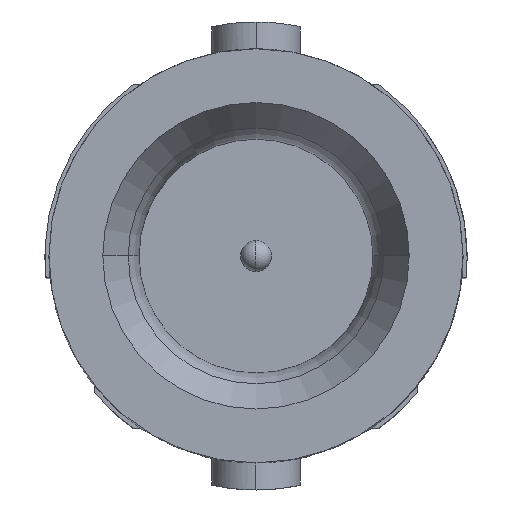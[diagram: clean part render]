
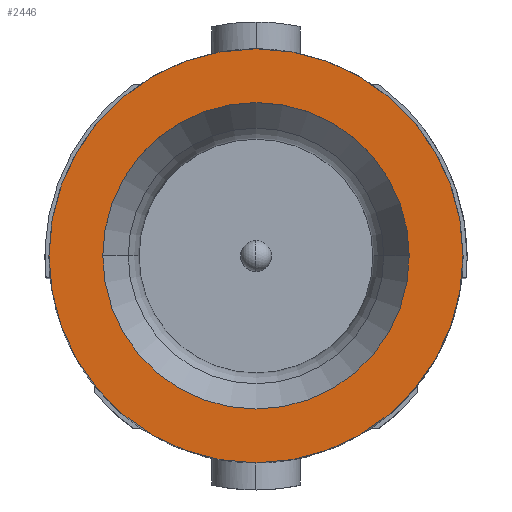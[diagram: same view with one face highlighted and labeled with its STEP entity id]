
A CAD part, top view. The second image highlights one B-rep face of the part: STEP entity #2446.
In plain terms, the highlighted planar face has unit normal (0, 0, 1).
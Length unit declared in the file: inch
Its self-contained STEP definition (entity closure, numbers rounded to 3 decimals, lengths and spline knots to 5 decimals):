
#41 = DIRECTION ( 'NONE',  ( 1., 0., 0. ) ) ;
#97 = AXIS2_PLACEMENT_3D ( 'NONE', #2220, #1118, #2920 ) ;
#231 = FACE_BOUND ( 'NONE', #1231, .T. ) ;
#234 = VERTEX_POINT ( 'NONE', #1091 ) ;
#461 = CIRCLE ( 'NONE', #2527, 0.077 ) ;
#522 = CIRCLE ( 'NONE', #97, 0.057 ) ;
#592 = VERTEX_POINT ( 'NONE', #2634 ) ;
#708 = CARTESIAN_POINT ( 'NONE',  ( 0., 0., 0. ) ) ;
#759 = AXIS2_PLACEMENT_3D ( 'NONE', #1728, #1501, #1280 ) ;
#869 = VERTEX_POINT ( 'NONE', #2417 ) ;
#965 = ORIENTED_EDGE ( 'NONE', *, *, #2555, .F. ) ;
#1076 = AXIS2_PLACEMENT_3D ( 'NONE', #1707, #2358, #2585 ) ;
#1091 = CARTESIAN_POINT ( 'NONE',  ( -0.057, 0., 0. ) ) ;
#1118 = DIRECTION ( 'NONE',  ( 0., 0., 1. ) ) ;
#1206 = ORIENTED_EDGE ( 'NONE', *, *, #2178, .F. ) ;
#1231 = EDGE_LOOP ( 'NONE', ( #965, #1206 ) ) ;
#1238 = CIRCLE ( 'NONE', #759, 0.057 ) ;
#1280 = DIRECTION ( 'NONE',  ( 1., 0., 0. ) ) ;
#1501 = DIRECTION ( 'NONE',  ( 0., 0., 1. ) ) ;
#1624 = PLANE ( 'NONE',  #2480 ) ;
#1655 = DIRECTION ( 'NONE',  ( 0., 0., 1. ) ) ;
#1707 = CARTESIAN_POINT ( 'NONE',  ( 0., 0., 0. ) ) ;
#1728 = CARTESIAN_POINT ( 'NONE',  ( 0., 0., 0. ) ) ;
#1852 = DIRECTION ( 'NONE',  ( 1., 0., 0. ) ) ;
#2048 = ORIENTED_EDGE ( 'NONE', *, *, #2588, .T. ) ;
#2051 = CARTESIAN_POINT ( 'NONE',  ( -0.077, 0., 0. ) ) ;
#2060 = DIRECTION ( 'NONE',  ( 0., 0., 1. ) ) ;
#2178 = EDGE_CURVE ( 'NONE', #234, #592, #522, .T. ) ;
#2220 = CARTESIAN_POINT ( 'NONE',  ( 0., 0., 0. ) ) ;
#2312 = VERTEX_POINT ( 'NONE', #2051 ) ;
#2339 = CIRCLE ( 'NONE', #1076, 0.077 ) ;
#2358 = DIRECTION ( 'NONE',  ( 0., 0., 1. ) ) ;
#2417 = CARTESIAN_POINT ( 'NONE',  ( 0.077, 0., 0. ) ) ;
#2446 = ADVANCED_FACE ( 'NONE', ( #2571, #231 ), #1624, .T. ) ;
#2480 = AXIS2_PLACEMENT_3D ( 'NONE', #708, #2060, #1852 ) ;
#2527 = AXIS2_PLACEMENT_3D ( 'NONE', #2534, #1655, #41 ) ;
#2534 = CARTESIAN_POINT ( 'NONE',  ( 0., 0., 0. ) ) ;
#2555 = EDGE_CURVE ( 'NONE', #592, #234, #1238, .T. ) ;
#2571 = FACE_OUTER_BOUND ( 'NONE', #2957, .T. ) ;
#2585 = DIRECTION ( 'NONE',  ( 1., 0., 0. ) ) ;
#2588 = EDGE_CURVE ( 'NONE', #869, #2312, #2339, .T. ) ;
#2634 = CARTESIAN_POINT ( 'NONE',  ( 0.057, 0., 0. ) ) ;
#2782 = EDGE_CURVE ( 'NONE', #2312, #869, #461, .T. ) ;
#2880 = ORIENTED_EDGE ( 'NONE', *, *, #2782, .T. ) ;
#2920 = DIRECTION ( 'NONE',  ( 1., 0., 0. ) ) ;
#2957 = EDGE_LOOP ( 'NONE', ( #2048, #2880 ) ) ;
